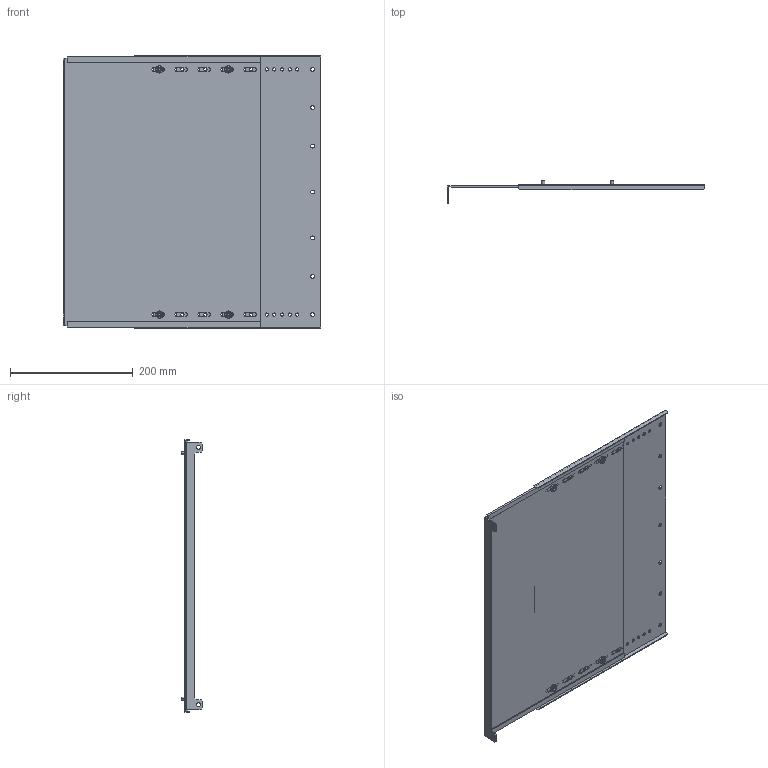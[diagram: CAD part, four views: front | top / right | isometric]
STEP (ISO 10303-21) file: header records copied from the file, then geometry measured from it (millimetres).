
FILE_DESCRIPTION (( 'STEP AP214' ), '1' );
FILE_NAME ('FO-00-SWVB-045-040 Ïåðåãîðîäêà ñåêöèîíèðîâàíèÿ âåðòèêàëüíàÿ äëÿ âåðòèêàëüíîãî øèííîãî îòñåêà 450õ400 ìì â øêàô ãëóáèíîé 800 ìì.STEP', '2025-08-08T07:45:15', ( '' ), ( '' ), 'SwSTEP 2.0', 'SolidWorks 2023', '' );
FILE_SCHEMA (( 'AUTOMOTIVE_DESIGN' ));
Length unit declared in the file: millimetre
Products named in the file (4): Болты М5х450; Перегородка секционирования 450х400; Перегородка секционирования ап  450х400; FO-00-SWVB-045-040 Перегородка секционирования вертикальная для вертикального шинного отсека 450х400 мм в шкаф глубиной 800 мм
Assembly tree (4 placements, depth 2):
  FO-00-SWVB-045-040 Перегородка секционирования вертикальная для вертикального шинного отсека 450х400 мм в шкаф глубиной 800 мм
    Перегородка секционирования ап  450х400
    Перегородка секционирования 450х400
    Болты М5х450  x2
Bounding box: 419.75 x 35.7 x 444.5 mm (x, y, z)
Volume: 437191.4 mm3; surface area: 579058.7 mm2
Topology: 6 solids, 6 shells, 306 faces, 834 edges, 548 vertices
Faces by surface type: cylinder 194, plane 88, torus 16, cone 8
Entity records: 8510 total; most frequent: DIRECTION 1538, CARTESIAN_POINT 1411, ORIENTED_EDGE 1392, EDGE_CURVE 696, AXIS2_PLACEMENT_3D 587, VERTEX_POINT 460, EDGE_LOOP 370, LINE 364
